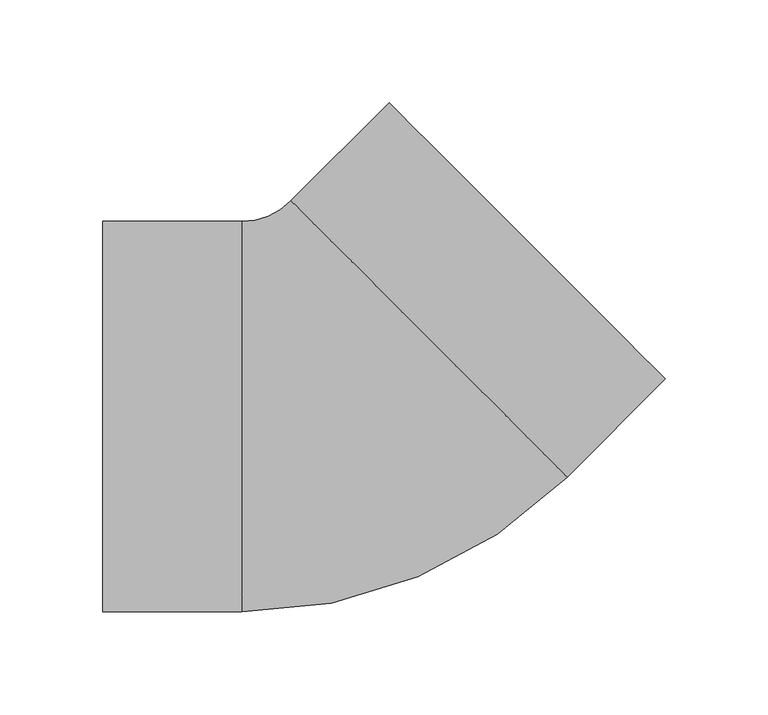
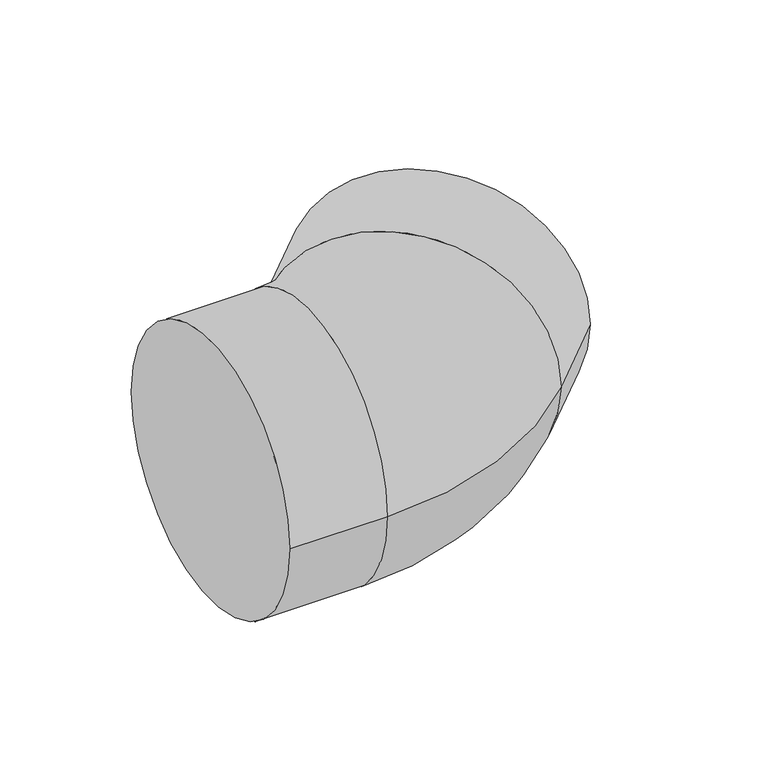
"""IFC4 building model written with IfcOpenShell, lengths in millimetres: pipe fitting geometry, PipeFitting_HTA_CPVC_Elbows : 160mm x 45°."""

from ifc_helpers import new_model, si_unit, point, frame, origin, place, context, project, spatial, circle_curve, ellipse_curve, trimmed, source, transform, mapped, element, save
from ifc_brep_helpers import plane_surface, cylinder_surface, revolved_surface, advanced_brep


def pipe_fitting_24effa59(model_context):
    return source(origin(), model_context, "Body", "AdvancedBrep", [
        advanced_brep(
        [(-121.0, -95.0, 0.0), (-121.0, 95.0, 0.0), (-53.4335495, -95.0, 0.0), (-53.4335495, 95.0, 0.0), (-29.391919, 104.9583694, 0.0), (104.9583694, -29.391919, 0.0), (152.7350647, 18.3847763, 0.0), (18.3847763, 152.7350647, 0.0)],
        [
            (0, 1, circle_curve(frame((-121.0, 0.0, 0.0), z_axis=(-1.0, 0.0, 0.0), x_axis=(0.0, 1.0, 0.0)), 95.0)),
            (1, 0, circle_curve(frame((-121.0, 0.0, 0.0), z_axis=(-1.0, 0.0, 0.0), x_axis=(0.0, 1.0, 0.0)), 95.0)),
            (0, 2),
            (2, 3, circle_curve(frame((-53.4335495, 0.0, 0.0), z_axis=(-1.0, 0.0, 0.0), x_axis=(0.0, 1.0, 0.0)), 95.0)),
            (3, 1),
            (3, 2, circle_curve(frame((-53.4335495, 0.0, 0.0), z_axis=(-1.0, 0.0, 0.0), x_axis=(0.0, 1.0, 0.0)), 95.0)),
            (4, 3, circle_curve(frame((-53.4335495, 129.0, 0.0), z_axis=(0.0, 0.0, -1.0), x_axis=(0.0, -1.0, 0.0)), 34.0)),
            (2, 5, circle_curve(frame((-53.4335495, 129.0, 0.0), z_axis=(0.0, 0.0, 1.0), x_axis=(0.0, -1.0, 0.0)), 224.0)),
            (5, 4, circle_curve(frame((37.7832252, 37.7832252, 0.0), z_axis=(-0.7071067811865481, -0.7071067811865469, 0.0), x_axis=(-0.7071067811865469, 0.7071067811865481, 0.0)), 95.0)),
            (4, 5, circle_curve(frame((37.7832252, 37.7832252, 0.0), z_axis=(-0.7071067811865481, -0.7071067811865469, 0.0), x_axis=(-0.7071067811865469, 0.7071067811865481, 0.0)), 95.0)),
            (6, 7, circle_curve(frame((85.5599205, 85.5599205, 0.0), z_axis=(0.707106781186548, 0.7071067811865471, 0.0), x_axis=(-0.7071067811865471, 0.707106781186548, 0.0)), 95.0)),
            (7, 6, circle_curve(frame((85.5599205, 85.5599205, 0.0), z_axis=(0.707106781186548, 0.7071067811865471, 0.0), x_axis=(-0.7071067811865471, 0.707106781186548, 0.0)), 95.0)),
            (5, 6),
            (7, 4),
        ],
        [
            plane_surface(frame((-121.0, 0.0, 0.0), z_axis=(-1.0, 0.0, 0.0), x_axis=(0.0, 0.0, 1.0))),
            cylinder_surface(frame((-121.0, 0.0, 0.0), z_axis=(-1.0, 0.0, 0.0), x_axis=(0.0, 1.0, 0.0)), 95.0),
            revolved_surface(trimmed(ellipse_curve(frame((-53.4335495, 0.0, 0.0), z_axis=(-1.0, 0.0, 0.0), x_axis=(0.0, 1.0, 0.0)), 95.0, 95.0), [point((-53.4335495, -95.0, 0.0))], [point((-53.4335495, 95.0, 0.0))], True, "CARTESIAN"), (-53.4335495, 129.0, 0.0), (0.0, 0.0, 1.0)),
            revolved_surface(trimmed(ellipse_curve(frame((-53.4335495, 0.0, 0.0), z_axis=(-1.0, 0.0, 0.0), x_axis=(0.0, 1.0, 0.0)), 95.0, 95.0), [point((-53.4335495, 95.0, 0.0))], [point((-53.4335495, -95.0, 0.0))], True, "CARTESIAN"), (-53.4335495, 129.0, 0.0), (0.0, 0.0, 1.0)),
            plane_surface(frame((85.5599205, 85.5599205, 0.0), z_axis=(0.707106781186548, 0.7071067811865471, 0.0), x_axis=(0.0, 0.0, 1.0))),
            cylinder_surface(frame((37.7832252, 37.7832252, 0.0), z_axis=(-0.707106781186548, -0.7071067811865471, 0.0), x_axis=(-0.7071067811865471, 0.707106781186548, 0.0)), 95.0),
        ],
        [
            (0, [[1, 2]]),
            (1, [[-1, 3, 4, 5]]),
            (1, [[-2, -5, 6, -3]]),
            (2, [[7, -4, 8, 9]]),
            (3, [[-8, -6, -7, 10]]),
            (4, [[11, 12]]),
            (5, [[-9, 13, -12, 14]]),
            (5, [[-10, -14, -11, -13]]),
        ],
    ),
    ])


if __name__ == "__main__":
    model = new_model("IFC4")
    model_context = context("Model", 3, world=origin())
    ifc_project = project(units=[si_unit("LENGTHUNIT", "METRE", prefix="MILLI")], contexts=[model_context])
    site = spatial("IfcSite", under=ifc_project)
    building = spatial("IfcBuilding", under=site)
    placement = place(None, origin())
    pipe_fitting_shape = pipe_fitting_24effa59(model_context)
    element("IfcPipeFitting", 1, ObjectType="PipeFitting_HTA_CPVC_Elbows : 160mm x 45°", at=placement, inside=building, context=model_context, shape_type="MappedRepresentation", body=[
        mapped(pipe_fitting_shape, transform((0.0, 0.0, 0.0), x_axis=(1.0, 0.0, 0.0), y_axis=(0.0, 1.0, 0.0), z_axis=(0.0, 0.0, 1.0))),
    ])
    save(model, "model.ifc")
